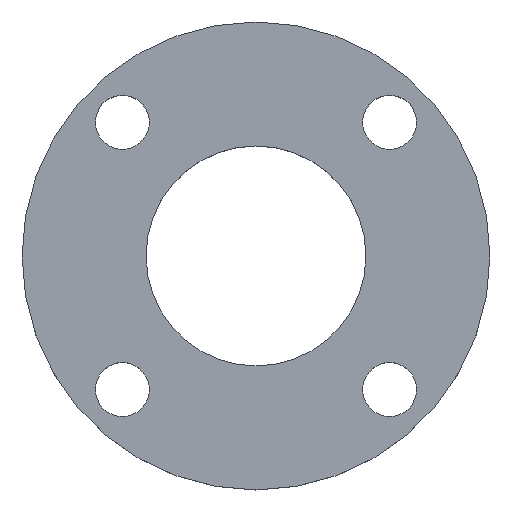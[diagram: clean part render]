
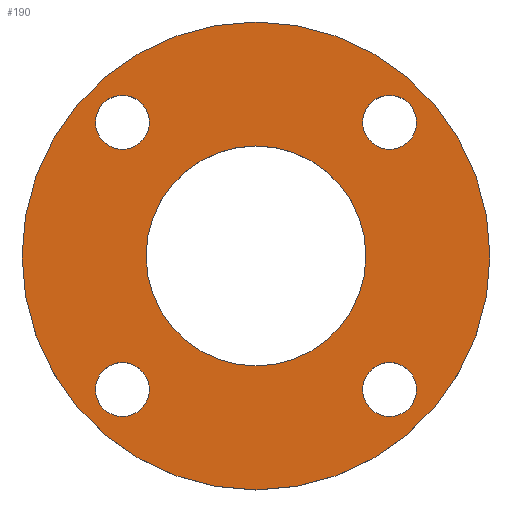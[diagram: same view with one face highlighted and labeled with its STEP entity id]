
A CAD part, top view. The second image highlights one B-rep face of the part: STEP entity #190.
In plain terms, the highlighted planar face has unit normal (0, 0, 1).
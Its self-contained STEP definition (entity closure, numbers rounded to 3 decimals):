
#15=FACE_BOUND('',#42,.T.);
#16=FACE_BOUND('',#43,.T.);
#17=FACE_BOUND('',#44,.T.);
#18=FACE_BOUND('',#45,.T.);
#19=FACE_BOUND('',#46,.T.);
#25=PLANE('',#237);
#33=FACE_OUTER_BOUND('',#41,.T.);
#41=EDGE_LOOP('',(#159,#160));
#42=EDGE_LOOP('',(#161,#162));
#43=EDGE_LOOP('',(#163,#164));
#44=EDGE_LOOP('',(#165,#166));
#45=EDGE_LOOP('',(#167,#168));
#46=EDGE_LOOP('',(#169,#170));
#65=CIRCLE('',#213,7.5);
#66=CIRCLE('',#214,7.5);
#68=CIRCLE('',#217,7.5);
#69=CIRCLE('',#218,7.5);
#71=CIRCLE('',#221,7.5);
#72=CIRCLE('',#222,7.5);
#74=CIRCLE('',#225,7.5);
#75=CIRCLE('',#226,7.5);
#77=CIRCLE('',#229,30.55);
#78=CIRCLE('',#230,30.55);
#80=CIRCLE('',#233,65.);
#81=CIRCLE('',#234,65.);
#84=VERTEX_POINT('',#303);
#85=VERTEX_POINT('',#304);
#87=VERTEX_POINT('',#311);
#88=VERTEX_POINT('',#312);
#90=VERTEX_POINT('',#319);
#91=VERTEX_POINT('',#320);
#93=VERTEX_POINT('',#327);
#94=VERTEX_POINT('',#328);
#96=VERTEX_POINT('',#335);
#97=VERTEX_POINT('',#336);
#99=VERTEX_POINT('',#343);
#100=VERTEX_POINT('',#344);
#103=EDGE_CURVE('',#84,#85,#65,.T.);
#104=EDGE_CURVE('',#85,#84,#66,.T.);
#107=EDGE_CURVE('',#87,#88,#68,.T.);
#108=EDGE_CURVE('',#88,#87,#69,.T.);
#111=EDGE_CURVE('',#90,#91,#71,.T.);
#112=EDGE_CURVE('',#91,#90,#72,.T.);
#115=EDGE_CURVE('',#93,#94,#74,.T.);
#116=EDGE_CURVE('',#94,#93,#75,.T.);
#119=EDGE_CURVE('',#96,#97,#77,.T.);
#120=EDGE_CURVE('',#97,#96,#78,.T.);
#123=EDGE_CURVE('',#99,#100,#80,.T.);
#124=EDGE_CURVE('',#100,#99,#81,.T.);
#159=ORIENTED_EDGE('',*,*,#123,.T.);
#160=ORIENTED_EDGE('',*,*,#124,.T.);
#161=ORIENTED_EDGE('',*,*,#103,.T.);
#162=ORIENTED_EDGE('',*,*,#104,.T.);
#163=ORIENTED_EDGE('',*,*,#107,.T.);
#164=ORIENTED_EDGE('',*,*,#108,.T.);
#165=ORIENTED_EDGE('',*,*,#111,.T.);
#166=ORIENTED_EDGE('',*,*,#112,.T.);
#167=ORIENTED_EDGE('',*,*,#115,.T.);
#168=ORIENTED_EDGE('',*,*,#116,.T.);
#169=ORIENTED_EDGE('',*,*,#119,.T.);
#170=ORIENTED_EDGE('',*,*,#120,.T.);
#190=ADVANCED_FACE('',(#33,#15,#16,#17,#18,#19),#25,.T.);
#213=AXIS2_PLACEMENT_3D('',#305,#243,#244);
#214=AXIS2_PLACEMENT_3D('',#306,#245,#246);
#217=AXIS2_PLACEMENT_3D('',#313,#252,#253);
#218=AXIS2_PLACEMENT_3D('',#314,#254,#255);
#221=AXIS2_PLACEMENT_3D('',#321,#261,#262);
#222=AXIS2_PLACEMENT_3D('',#322,#263,#264);
#225=AXIS2_PLACEMENT_3D('',#329,#270,#271);
#226=AXIS2_PLACEMENT_3D('',#330,#272,#273);
#229=AXIS2_PLACEMENT_3D('',#337,#279,#280);
#230=AXIS2_PLACEMENT_3D('',#338,#281,#282);
#233=AXIS2_PLACEMENT_3D('',#345,#288,#289);
#234=AXIS2_PLACEMENT_3D('',#346,#290,#291);
#237=AXIS2_PLACEMENT_3D('',#352,#297,#298);
#243=DIRECTION('center_axis',(0.,0.,-1.));
#244=DIRECTION('ref_axis',(0.,-1.,0.));
#245=DIRECTION('center_axis',(0.,0.,-1.));
#246=DIRECTION('ref_axis',(0.,-1.,0.));
#252=DIRECTION('center_axis',(0.,0.,-1.));
#253=DIRECTION('ref_axis',(-1.,0.,0.));
#254=DIRECTION('center_axis',(0.,0.,-1.));
#255=DIRECTION('ref_axis',(-1.,0.,0.));
#261=DIRECTION('center_axis',(0.,0.,-1.));
#262=DIRECTION('ref_axis',(0.,1.,0.));
#263=DIRECTION('center_axis',(0.,0.,-1.));
#264=DIRECTION('ref_axis',(0.,1.,0.));
#270=DIRECTION('center_axis',(0.,0.,-1.));
#271=DIRECTION('ref_axis',(1.,0.,0.));
#272=DIRECTION('center_axis',(0.,0.,-1.));
#273=DIRECTION('ref_axis',(1.,0.,0.));
#279=DIRECTION('center_axis',(0.,0.,-1.));
#280=DIRECTION('ref_axis',(1.,0.,0.));
#281=DIRECTION('center_axis',(0.,0.,-1.));
#282=DIRECTION('ref_axis',(1.,0.,0.));
#288=DIRECTION('center_axis',(0.,0.,1.));
#289=DIRECTION('ref_axis',(1.,0.,0.));
#290=DIRECTION('center_axis',(0.,0.,1.));
#291=DIRECTION('ref_axis',(1.,0.,0.));
#297=DIRECTION('center_axis',(0.,0.,1.));
#298=DIRECTION('ref_axis',(1.,0.,0.));
#303=CARTESIAN_POINT('',(37.123,29.623,14.));
#304=CARTESIAN_POINT('',(37.123,44.623,14.));
#305=CARTESIAN_POINT('Origin',(37.123,37.123,14.));
#306=CARTESIAN_POINT('Origin',(37.123,37.123,14.));
#311=CARTESIAN_POINT('',(29.623,-37.123,14.));
#312=CARTESIAN_POINT('',(44.623,-37.123,14.));
#313=CARTESIAN_POINT('Origin',(37.123,-37.123,14.));
#314=CARTESIAN_POINT('Origin',(37.123,-37.123,14.));
#319=CARTESIAN_POINT('',(-37.123,-29.623,14.));
#320=CARTESIAN_POINT('',(-37.123,-44.623,14.));
#321=CARTESIAN_POINT('Origin',(-37.123,-37.123,14.));
#322=CARTESIAN_POINT('Origin',(-37.123,-37.123,14.));
#327=CARTESIAN_POINT('',(-29.623,37.123,14.));
#328=CARTESIAN_POINT('',(-44.623,37.123,14.));
#329=CARTESIAN_POINT('Origin',(-37.123,37.123,14.));
#330=CARTESIAN_POINT('Origin',(-37.123,37.123,14.));
#335=CARTESIAN_POINT('',(30.55,0.,14.));
#336=CARTESIAN_POINT('',(-30.55,0.,14.));
#337=CARTESIAN_POINT('Origin',(0.,0.,14.));
#338=CARTESIAN_POINT('Origin',(0.,0.,14.));
#343=CARTESIAN_POINT('',(65.,0.,14.));
#344=CARTESIAN_POINT('',(-65.,0.,14.));
#345=CARTESIAN_POINT('Origin',(0.,0.,14.));
#346=CARTESIAN_POINT('Origin',(0.,0.,14.));
#352=CARTESIAN_POINT('Origin',(0.,0.,14.));
